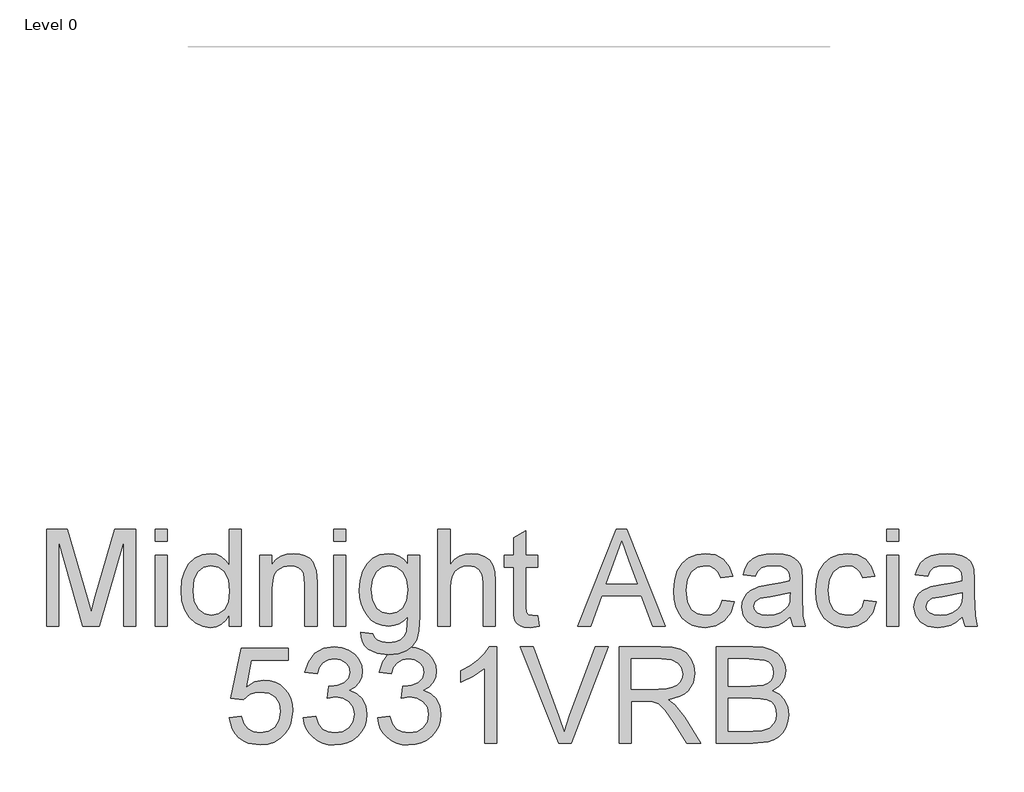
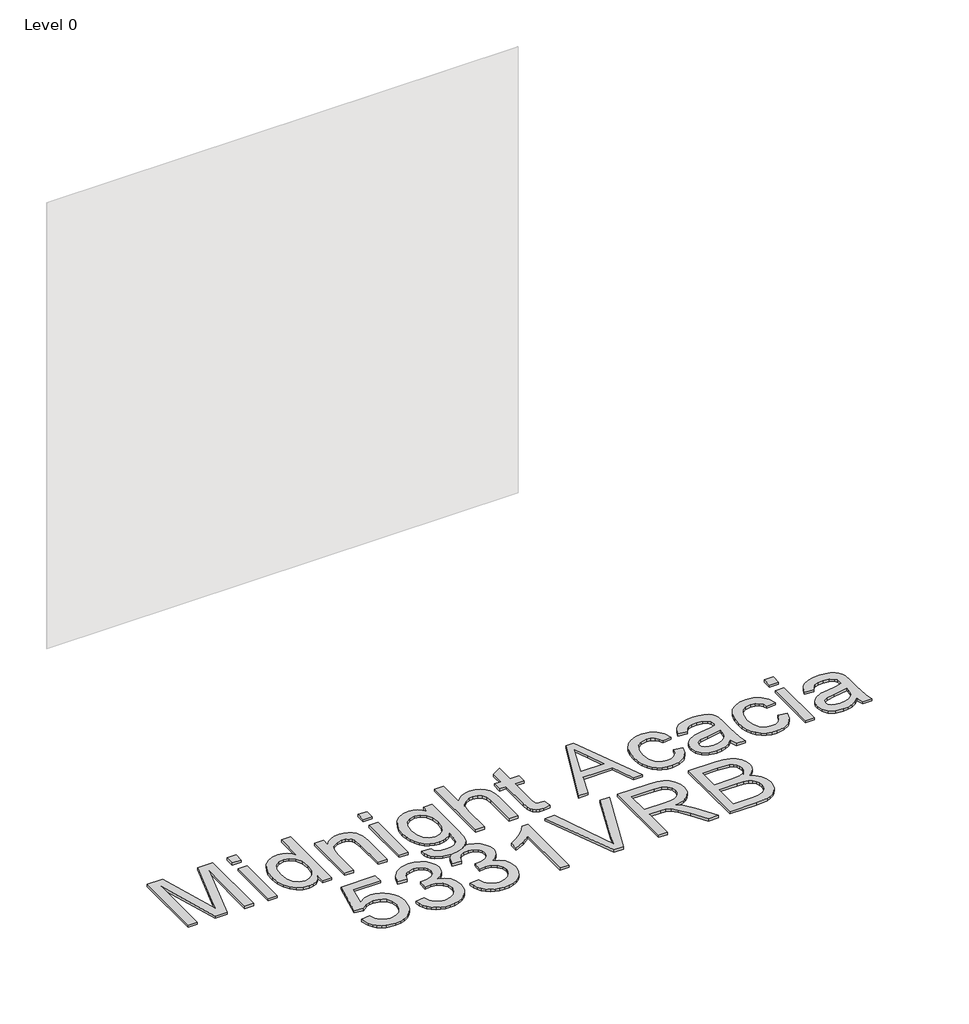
# One storey, part 17 of 43: 1 proxy.
"""IFC4 building model written with IfcOpenShell, lengths in millimetres."""

from ifc_helpers import new_model, si_unit, origin, origin_with_axes, place, context, project, spatial, polyline, outline, extrude, element, save

model = new_model("IFC4")

# Units and contexts
model_context = context("Model", 3, world=origin())
ifc_project = project(units=[si_unit("LENGTHUNIT", "METRE", prefix="MILLI")], contexts=[model_context])

# Site, building, storey
site = spatial("IfcSite", under=ifc_project)
building = spatial("IfcBuilding", under=site)
storey = spatial("IfcBuildingStorey", under=building, Name="Level 0", Elevation=0.0)

# Proxy
placement = place(None, origin())
element("IfcBuildingElementProxy", 1, Name="300mm Arial", ObjectType="300mm Arial", at=placement, inside=storey, context=model_context, shape_type="SweptSolid", body=[
    extrude(outline(polyline([(9108.421745, -37028.0303751), (9108.421745, -36726.6614447), (9173.2425525, -36726.6614447), (9234.8995749, -36939.0765087), (9247.3339864, -36983.4430773), (9260.7984674, -36935.3976887), (9321.4254202, -36726.6614447), (9386.2462277, -36726.6614447), (9386.2462277, -37028.0303751), (9348.5751114, -37028.0303751), (9348.5751114, -36764.332561), (9272.8649968, -37028.0303751), (9221.8029759, -37028.0303751), (9146.0928613, -36764.332561), (9146.0928613, -37028.0303751), (9108.421745, -37028.0303751)])), origin_with_axes(), (0.0, 0.0, 1.0), 10.0),
    extrude(outline(polyline([(9447.4617917, -36764.332561), (9447.4617917, -36726.6614447), (9485.132908, -36726.6614447), (9485.132908, -36764.332561), (9447.4617917, -36764.332561)])), origin_with_axes(), (0.0, 0.0, 1.0), 10.0),
    extrude(outline(polyline([(9447.4617917, -37028.0303751), (9447.4617917, -36806.7125668), (9485.132908, -36806.7125668), (9485.132908, -37028.0303751), (9447.4617917, -37028.0303751)])), origin_with_axes(), (0.0, 0.0, 1.0), 10.0),
    extrude(outline(polyline([(9678.1973791, -37028.0303751), (9678.1973791, -36992.4929744), (9666.9263945, -37010.1007264), (9653.2733739, -37022.6776921), (9637.2383175, -37030.2238715), (9618.8212251, -37032.7392647), (9594.467437, -37029.0972329), (9572.1737881, -37018.1711377), (9553.3014418, -37000.724334), (9539.2115613, -36977.5201772), (9530.4375758, -36949.4967662), (9527.5129139, -36917.5922002), (9530.2076495, -36886.0831073), (9538.2918563, -36857.627435), (9551.7563374, -36833.843864), (9570.5918955, -36816.3510751), (9593.3729881, -36805.5905267), (9618.6740723, -36802.0036773), (9637.1049603, -36804.5696542), (9653.4021326, -36812.2675849), (9667.2161016, -36824.0673999), (9678.1973791, -36838.9390296), (9678.1973791, -36726.6614447), (9715.8684954, -36726.6614447), (9715.8684954, -37028.0303751), (9678.1973791, -37028.0303751)]), holes=[polyline([(9565.1840302, -36917.4450474), (9569.4330672, -36951.5201172), (9582.1801784, -36975.7543436), (9600.7030368, -36990.2396972), (9622.2793158, -36995.0681484), (9643.8463978, -36990.4604264), (9661.9002067, -36976.6372604), (9674.123086, -36953.3411331), (9678.1973791, -36920.3145269), (9674.0495096, -36884.2069091), (9661.6059011, -36859.1725393), (9643.0922397, -36844.54923), (9620.7342115, -36839.6747936), (9598.9372033, -36844.356092), (9581.0765324, -36858.3999871), (9569.1571557, -36882.523849), (9565.1840302, -36917.4450474)])]), origin_with_axes(), (0.0, 0.0, 1.0), 10.0),
    extrude(outline(polyline([(9772.3751699, -37028.0303751), (9772.3751699, -36806.7125668), (9810.0462862, -36806.7125668), (9810.0462862, -36837.6146544), (9823.1336882, -36822.0348519), (9838.8514464, -36810.9064216), (9857.1995609, -36804.2293634), (9878.1780317, -36802.0036773), (9896.7468754, -36803.797102), (9913.7522206, -36809.1773762), (9927.9340715, -36817.4731152), (9938.0324323, -36828.0129343), (9949.3264096, -36855.7144486), (9951.3129723, -36892.1347661), (9951.3129723, -37028.0303751), (9913.641856, -37028.0303751), (9913.641856, -36897.2115376), (9909.3008485, -36863.8814289), (9903.2951749, -36853.9578121), (9893.9601693, -36846.2598813), (9881.9948074, -36841.3210655), (9868.098065, -36839.6747936), (9846.0343424, -36843.3720076), (9827.2263754, -36854.4636498), (9819.7100863, -36863.5181454), (9814.3413085, -36875.892776), (9810.0462862, -36910.6024423), (9810.0462862, -37028.0303751), (9772.3751699, -37028.0303751)])), origin_with_axes(), (0.0, 0.0, 1.0), 10.0),
    extrude(outline(polyline([(10003.1107573, -36764.332561), (10003.1107573, -36726.6614447), (10040.7818736, -36726.6614447), (10040.7818736, -36764.332561), (10003.1107573, -36764.332561)])), origin_with_axes(), (0.0, 0.0, 1.0), 10.0),
    extrude(outline(polyline([(10003.1107573, -37028.0303751), (10003.1107573, -36806.7125668), (10040.7818736, -36806.7125668), (10040.7818736, -37028.0303751), (10003.1107573, -37028.0303751)])), origin_with_axes(), (0.0, 0.0, 1.0), 10.0),
    extrude(outline(polyline([(10087.8707689, -37046.8659333), (10125.5418852, -37051.5748228), (10129.6989518, -37063.3470467), (10137.7555675, -37071.4404506), (10153.5928874, -37077.7312327), (10174.3230378, -37079.82816), (10196.4327457, -37077.4553212), (10212.8770709, -37070.3368046), (10224.2814128, -37058.9324627), (10231.2711707, -37043.7021481), (10233.8463446, -36999.7770379), (10221.3107656, -37012.1378729), (10207.3220528, -37020.9670408), (10191.880206, -37026.2645415), (10174.9852254, -37028.0303751), (10154.3309506, -37025.9748345), (10136.1460838, -37019.8082125), (10120.4306248, -37009.5305093), (10107.1845737, -36995.1417248), (10096.6746449, -36977.8788621), (10089.167553, -36958.9789246), (10084.6632978, -36938.4419122), (10083.1618794, -36916.267825), (10085.856615, -36885.853181), (10093.9408219, -36857.8849524), (10107.1293914, -36834.1841548), (10125.1372151, -36816.5718043), (10147.3480905, -36805.645709), (10173.1458154, -36802.0036773), (10190.7627645, -36804.0638165), (10206.7518357, -36810.244234), (10221.1130291, -36820.5449298), (10233.8463446, -36834.9659041), (10233.8463446, -36806.7125668), (10271.5174609, -36806.7125668), (10271.5174609, -36997.7904751), (10268.942287, -37041.9087234), (10261.2167651, -37070.962204), (10247.9086339, -37090.2300235), (10228.5856321, -37104.9912885), (10203.670824, -37114.3722794), (10173.5872738, -37117.4992763), (10138.5373167, -37113.0938895), (10110.93697, -37099.8777288), (10100.5420044, -37089.9564112), (10093.232649, -37077.8140061), (10089.0089039, -37063.4505135), (10087.8707689, -37046.8659333)]), holes=[polyline([(10120.8329957, -36913.692651), (10124.8521065, -36948.2459674), (10136.9094389, -36972.0019473), (10155.0368242, -36985.7699309), (10177.2660938, -36990.3592588), (10199.3298164, -36985.7975221), (10217.5491722, -36972.1123119), (10229.7720515, -36948.6598347), (10233.8463446, -36914.796297), (10229.6524899, -36882.1375729), (10217.0709256, -36858.6207163), (10198.5848554, -36844.4112743), (10176.6774826, -36839.6747936), (10155.1655829, -36844.3376979), (10137.1301681, -36858.3264107), (10124.9072888, -36881.4937794), (10120.8329957, -36913.692651)])]), origin_with_axes(), (0.0, 0.0, 1.0), 10.0),
    extrude(outline(polyline([(10328.0241354, -37028.0303751), (10328.0241354, -36726.6614447), (10365.6952517, -36726.6614447), (10365.6952517, -36837.4675016), (10379.5322132, -36821.9520785), (10395.070629, -36810.8696334), (10412.310499, -36804.2201663), (10431.2518232, -36802.0036773), (10454.0053246, -36804.4225014), (10473.5582527, -36811.6789738), (10488.9541142, -36823.2028773), (10499.2364159, -36838.4239948), (10505.0305574, -36859.3380862), (10506.9619378, -36887.9409114), (10506.9619378, -37028.0303751), (10469.2908215, -37028.0303751), (10469.2908215, -36891.8404605), (10466.2925833, -36868.2592246), (10457.2978685, -36852.109205), (10442.8033179, -36842.7833964), (10423.3055721, -36839.6747936), (10407.3854788, -36841.771721), (10392.4402727, -36848.0625031), (10380.0610436, -36857.9401347), (10371.838881, -36870.7976104), (10367.231159, -36887.8857291), (10365.6952517, -36910.4552895), (10365.6952517, -37028.0303751), (10328.0241354, -37028.0303751)])), origin_with_axes(), (0.0, 0.0, 1.0), 10.0),
    extrude(outline(polyline([(10638.8108449, -36996.6132527), (10643.5197345, -37029.1340211), (10615.3399736, -37032.7392647), (10597.2585736, -37031.1757662), (10583.7756984, -37026.4852707), (10574.2475548, -37019.2563895), (10568.030349, -37010.0777338), (10564.6090465, -36994.3139903), (10563.4686123, -36967.3298459), (10563.4686123, -36844.3836831), (10535.2152751, -36844.3836831), (10535.2152751, -36806.7125668), (10563.4686123, -36806.7125668), (10563.4686123, -36752.9282191), (10601.1397286, -36730.781723), (10601.1397286, -36806.7125668), (10638.8108449, -36806.7125668), (10638.8108449, -36844.3836831), (10601.1397286, -36844.3836831), (10601.1397286, -36966.2261999), (10603.1262914, -36985.6503693), (10609.5642263, -36992.5297626), (10622.4033079, -36995.0681484), (10638.8108449, -36996.6132527)])), origin_with_axes(), (0.0, 0.0, 1.0), 10.0),
    extrude(outline(polyline([(10763.8171469, -37028.0303751), (10884.1145593, -36726.6614447), (10916.1938693, -36726.6614447), (11036.4912817, -37028.0303751), (10996.6864498, -37028.0303751), (10962.1791187, -36933.8525844), (10838.0557335, -36933.8525844), (10803.6219788, -37028.0303751), (10763.8171469, -37028.0303751)]), holes=[polyline([(10851.8880965, -36896.181468), (10948.4203321, -36896.181468), (10921.2706408, -36822.0900342), (10900.1542143, -36764.332561), (10881.3922325, -36815.6153111), (10851.8880965, -36896.181468)])]), origin_with_axes(), (0.0, 0.0, 1.0), 10.0),
    extrude(outline(polyline([(11213.2953686, -36947.979253), (11250.9664849, -36952.6881425), (11240.4634539, -36986.1929952), (11220.7265849, -37011.5124735), (11193.6136818, -37027.4325669), (11160.9825489, -37032.7392647), (11139.854626, -37030.8883584), (11120.9110025, -37025.3356395), (11104.1516784, -37016.0811081), (11089.5766536, -37003.124764), (11077.7791379, -36986.7103293), (11069.3523409, -36967.0815256), (11064.2962628, -36944.2383529), (11062.6109034, -36918.1808114), (11065.48958, -36884.6575646), (11074.1256098, -36855.604084), (11088.6569486, -36832.1424097), (11109.2215522, -36815.3945819), (11133.8236606, -36805.3514034), (11160.4675141, -36802.0036773), (11192.2985037, -36806.6022022), (11217.7467407, -36820.397777), (11236.0028847, -36842.6546378), (11246.2575954, -36872.6370204), (11208.586479, -36877.3459099), (11201.753071, -36860.9107818), (11191.1120843, -36849.1293609), (11177.2521301, -36842.0384354), (11160.7618197, -36839.6747936), (11136.4172286, -36844.3285008), (11117.0942268, -36858.2896225), (11104.4850715, -36882.3123168), (11100.2820197, -36917.1507418), (11104.393101, -36952.4582163), (11116.7263449, -36976.563684), (11135.6998588, -36990.4420323), (11159.7317501, -36995.0681484), (11179.2386929, -36992.1802747), (11195.2323626, -36983.5166537), (11206.8666307, -36968.8565562), (11213.2953686, -36947.979253)])), origin_with_axes(), (0.0, 0.0, 1.0), 10.0),
    extrude(outline(polyline([(11425.1953978, -36999.7770379), (11407.1967712, -37015.2096876), (11388.6647157, -37025.3080484), (11369.176167, -37030.8814606), (11348.3080608, -37032.7392647), (11316.8265591, -37028.2694984), (11293.6040081, -37014.8601997), (11279.2842015, -36994.4979313), (11274.5109326, -36969.1692559), (11276.3135544, -36953.5526652), (11281.7214197, -36939.3708143), (11290.0631439, -36927.2307084), (11300.6673424, -36917.739353), (11327.0444815, -36905.3785179), (11359.6388263, -36899.7131352), (11398.1560712, -36893.7534469), (11424.9746686, -36886.763689), (11425.1953978, -36878.3759795), (11422.6018297, -36861.5637723), (11414.8211255, -36850.5641006), (11397.4203072, -36842.3971204), (11373.1768837, -36839.6747936), (11350.736082, -36841.4866124), (11335.064309, -36846.9220689), (11324.377337, -36856.9744444), (11316.8909384, -36872.6370204), (11279.2198221, -36867.9281308), (11285.7589246, -36847.3267391), (11295.5169945, -36831.1399313), (11309.4045398, -36818.7607022), (11328.3320685, -36809.5820464), (11351.481043, -36803.8982696), (11378.032926, -36802.0036773), (11403.4995571, -36803.6775404), (11423.6870816, -36808.6991296), (11438.9081992, -36816.2499075), (11449.4756095, -36825.5113368), (11456.4837615, -36836.9616639), (11461.0271041, -36851.0791354), (11462.8665141, -36884.0413622), (11462.8665141, -36930.9095284), (11464.7795005, -36996.3557353), (11472.2842932, -37028.0303751), (11434.6131769, -37028.0303751), (11425.1953978, -36999.7770379)]), holes=[polyline([(11425.1953978, -36924.4348053), (11364.4212922, -36935.9862999), (11332.0108884, -36942.093141), (11317.3323968, -36952.0259549), (11312.1820489, -36966.5205055), (11314.9871491, -36977.7225123), (11323.4024497, -36986.9011681), (11337.2440098, -36993.0264033), (11356.3278883, -36995.0681484), (11376.561398, -36992.8148711), (11394.440463, -36986.0550395), (11408.9350136, -36976.0946345), (11419.0149803, -36964.2396372), (11423.4847465, -36952.0259549), (11424.9746686, -36935.1033831), (11425.1953978, -36924.4348053)])]), origin_with_axes(), (0.0, 0.0, 1.0), 10.0),
    extrude(outline(polyline([(11655.9309852, -36947.979253), (11693.6021015, -36952.6881425), (11683.0990705, -36986.1929952), (11663.3622015, -37011.5124735), (11636.2492984, -37027.4325669), (11603.6181655, -37032.7392647), (11582.4902426, -37030.8883584), (11563.5466191, -37025.3356395), (11546.787295, -37016.0811081), (11532.2122702, -37003.124764), (11520.4147545, -36986.7103293), (11511.9879575, -36967.0815256), (11506.9318794, -36944.2383529), (11505.24652, -36918.1808114), (11508.1251966, -36884.6575646), (11516.7612264, -36855.604084), (11531.2925652, -36832.1424097), (11551.8571687, -36815.3945819), (11576.4592772, -36805.3514034), (11603.1031307, -36802.0036773), (11634.9341203, -36806.6022022), (11660.3823573, -36820.397777), (11678.6385013, -36842.6546378), (11688.893212, -36872.6370204), (11651.2220956, -36877.3459099), (11644.3886876, -36860.9107818), (11633.7477009, -36849.1293609), (11619.8877467, -36842.0384354), (11603.3974363, -36839.6747936), (11579.0528452, -36844.3285008), (11559.7298434, -36858.2896225), (11547.1206881, -36882.3123168), (11542.9176363, -36917.1507418), (11547.0287176, -36952.4582163), (11559.3619615, -36976.563684), (11578.3354754, -36990.4420323), (11602.3673667, -36995.0681484), (11621.8743095, -36992.1802747), (11637.8679792, -36983.5166537), (11649.5022473, -36968.8565562), (11655.9309852, -36947.979253)])), origin_with_axes(), (0.0, 0.0, 1.0), 10.0),
    extrude(outline(polyline([(11726.5643283, -36764.332561), (11726.5643283, -36726.6614447), (11764.2354446, -36726.6614447), (11764.2354446, -36764.332561), (11726.5643283, -36764.332561)])), origin_with_axes(), (0.0, 0.0, 1.0), 10.0),
    extrude(outline(polyline([(11726.5643283, -37028.0303751), (11726.5643283, -36806.7125668), (11764.2354446, -36806.7125668), (11764.2354446, -37028.0303751), (11726.5643283, -37028.0303751)])), origin_with_axes(), (0.0, 0.0, 1.0), 10.0),
    extrude(outline(polyline([(11962.0088052, -36999.7770379), (11944.0101786, -37015.2096876), (11925.4781231, -37025.3080484), (11905.9895744, -37030.8814606), (11885.1214682, -37032.7392647), (11853.6399664, -37028.2694984), (11830.4174155, -37014.8601997), (11816.0976088, -36994.4979313), (11811.3243399, -36969.1692559), (11813.1269617, -36953.5526652), (11818.5348271, -36939.3708143), (11826.8765513, -36927.2307084), (11837.4807498, -36917.739353), (11863.8578889, -36905.3785179), (11896.4522336, -36899.7131352), (11934.9694785, -36893.7534469), (11961.788076, -36886.763689), (11962.0088052, -36878.3759795), (11959.4152371, -36861.5637723), (11951.6345329, -36850.5641006), (11934.2337145, -36842.3971204), (11909.9902911, -36839.6747936), (11887.5494893, -36841.4866124), (11871.8777164, -36846.9220689), (11861.1907444, -36856.9744444), (11853.7043458, -36872.6370204), (11816.0332295, -36867.9281308), (11822.5723319, -36847.3267391), (11832.3304019, -36831.1399313), (11846.2179472, -36818.7607022), (11865.1454758, -36809.5820464), (11888.2944504, -36803.8982696), (11914.8463334, -36802.0036773), (11940.3129645, -36803.6775404), (11960.500489, -36808.6991296), (11975.7216065, -36816.2499075), (11986.2890169, -36825.5113368), (11993.2971689, -36836.9616639), (11997.8405115, -36851.0791354), (11999.6799215, -36884.0413622), (11999.6799215, -36930.9095284), (12001.5929079, -36996.3557353), (12009.0977006, -37028.0303751), (11971.4265842, -37028.0303751), (11962.0088052, -36999.7770379)]), holes=[polyline([(11962.0088052, -36924.4348053), (11901.2346996, -36935.9862999), (11868.8242958, -36942.093141), (11854.1458042, -36952.0259549), (11848.9954563, -36966.5205055), (11851.8005565, -36977.7225123), (11860.2158571, -36986.9011681), (11874.0574172, -36993.0264033), (11893.1412957, -36995.0681484), (11913.3748054, -36992.8148711), (11931.2538704, -36986.0550395), (11945.748421, -36976.0946345), (11955.8283877, -36964.2396372), (11960.2981539, -36952.0259549), (11961.788076, -36935.1033831), (11962.0088052, -36924.4348053)])]), origin_with_axes(), (0.0, 0.0, 1.0), 10.0),
    extrude(outline(polyline([(9678.1973791, -37313.9037065), (9715.8684954, -37309.194817), (9722.7846769, -37331.8103626), (9734.8512064, -37348.0063675), (9752.0129014, -37357.7460433), (9774.2145799, -37360.9926019), (9801.2171183, -37356.4768504), (9821.450628, -37342.9295959), (9834.0873746, -37321.914337), (9838.2996234, -37294.994572), (9834.354089, -37269.6475025), (9822.5174858, -37250.2601213), (9802.6978433, -37237.9544686), (9774.803191, -37233.8525844), (9756.5286529, -37235.4896592), (9741.7305997, -37240.4008839), (9720.577385, -37257.397032), (9682.9062687, -37252.6881425), (9715.8684954, -37097.2947877), (9861.8440711, -37097.2947877), (9861.8440711, -37134.9659041), (9746.3291246, -37134.9659041), (9730.2158932, -37217.9600822), (9757.1264612, -37201.6261216), (9785.3246161, -37196.181468), (9803.6704314, -37197.8691267), (9820.521726, -37202.9321027), (9835.8785, -37211.3703959), (9849.7407535, -37223.1840065), (9861.2163725, -37237.650966), (9869.4132432, -37254.0493059), (9874.3313656, -37272.3790263), (9875.9707397, -37292.6401272), (9870.0662337, -37330.3112435), (9862.6856012, -37347.1050566), (9852.3527156, -37362.5377063), (9836.6993367, -37378.3428365), (9818.4339957, -37389.6322152), (9797.5566924, -37396.4058424), (9774.0674271, -37398.6637182), (9737.0676954, -37392.8603797), (9721.3890246, -37385.6062066), (9707.5911505, -37375.4503643), (9696.110933, -37362.8986905), (9687.3852319, -37348.4570229), (9678.1973791, -37313.9037065)])), origin_with_axes(), (0.0, 0.0, 1.0), 10.0),
    extrude(outline(polyline([(9908.9329665, -37313.9037065), (9946.6040828, -37309.194817), (9955.0377775, -37332.8680234), (9967.3894155, -37348.852496), (9984.2660021, -37357.9575754), (10006.2745424, -37360.9926019), (10032.0998585, -37356.8171412), (10052.0390626, -37344.2907593), (10064.7861737, -37325.602354), (10069.0352108, -37302.940823), (10064.8229619, -37281.4289234), (10052.1862154, -37263.9821198), (10033.0563517, -37252.4214281), (10009.3647512, -37248.5678642), (9982.9508239, -37252.6881425), (9987.1446787, -37215.0170262), (9993.1779434, -37215.4584846), (10015.7475038, -37212.7545519), (10035.9258312, -37204.6427539), (10050.1628644, -37190.9207555), (10054.9085422, -37171.3862216), (10051.4688455, -37155.1166403), (10041.1497556, -37141.9188738), (10025.4044062, -37133.1724793), (10005.6859312, -37130.2570145), (9985.9306681, -37133.2000705), (9969.7806485, -37142.0292384), (9957.9900305, -37156.7445182), (9951.3129723, -37177.3459099), (9913.641856, -37172.6370204), (9924.7334982, -37138.8102709), (9944.4703672, -37113.5551719), (9971.4729057, -37097.8282166), (10004.361556, -37092.5858982), (10028.0439595, -37095.1702692), (10049.7949824, -37102.9233823), (10068.1338999, -37115.1554586), (10081.5799868, -37131.1767195), (10089.8297406, -37149.6351986), (10092.5796585, -37169.1789296), (10089.9676963, -37187.3890884), (10082.1318098, -37203.9069899), (10069.1823636, -37217.9784763), (10051.2297222, -37228.8493892), (10074.8109581, -37238.3775329), (10092.2853529, -37254.6011289), (10103.1010835, -37276.6372604), (10106.7063271, -37303.6030106), (10104.9037053, -37322.7144803), (10099.49584, -37340.3176338), (10090.4827311, -37356.412471), (10077.8643787, -37370.9989922), (10062.4915098, -37383.1023098), (10045.2148516, -37391.7475367), (10026.0344041, -37396.9346728), (10004.9501672, -37398.6637182), (9985.8938799, -37397.1875917), (9968.5298497, -37392.7592122), (9952.8580767, -37385.3785796), (9938.8785609, -37375.0456941), (9927.1569208, -37362.3675608), (9918.2587751, -37347.9511852), (9912.1841236, -37331.796567), (9908.9329665, -37313.9037065)])), origin_with_axes(), (0.0, 0.0, 1.0), 10.0),
    extrude(outline(polyline([(10139.6685539, -37313.9037065), (10177.3396702, -37309.194817), (10185.7733649, -37332.8680234), (10198.1250029, -37348.852496), (10215.0015894, -37357.9575754), (10237.0101298, -37360.9926019), (10262.8354458, -37356.8171412), (10282.77465, -37344.2907593), (10295.5217611, -37325.602354), (10299.7707982, -37302.940823), (10295.5585493, -37281.4289234), (10282.9218028, -37263.9821198), (10263.791939, -37252.4214281), (10240.1003385, -37248.5678642), (10213.6864113, -37252.6881425), (10217.880266, -37215.0170262), (10223.9135308, -37215.4584846), (10246.4830912, -37212.7545519), (10266.6614186, -37204.6427539), (10280.8984518, -37190.9207555), (10285.6441296, -37171.3862216), (10282.2044329, -37155.1166403), (10271.8853429, -37141.9188738), (10256.1399935, -37133.1724793), (10236.4215186, -37130.2570145), (10216.6662555, -37133.2000705), (10200.5162359, -37142.0292384), (10188.7256179, -37156.7445182), (10182.0485597, -37177.3459099), (10144.3774434, -37172.6370204), (10155.4690856, -37138.8102709), (10175.2059546, -37113.5551719), (10202.208493, -37097.8282166), (10235.0971434, -37092.5858982), (10258.7795469, -37095.1702692), (10280.5305698, -37102.9233823), (10298.8694873, -37115.1554586), (10312.3155742, -37131.1767195), (10320.5653279, -37149.6351986), (10323.3152459, -37169.1789296), (10320.7032837, -37187.3890884), (10312.8673972, -37203.9069899), (10299.917951, -37217.9784763), (10281.9653096, -37228.8493892), (10305.5465455, -37238.3775329), (10323.0209403, -37254.6011289), (10333.8366709, -37276.6372604), (10337.4419145, -37303.6030106), (10335.6392927, -37322.7144803), (10330.2314274, -37340.3176338), (10321.2183185, -37356.412471), (10308.599966, -37370.9989922), (10293.2270972, -37383.1023098), (10275.950439, -37391.7475367), (10256.7699915, -37396.9346728), (10235.6857546, -37398.6637182), (10216.6294673, -37397.1875917), (10199.2654371, -37392.7592122), (10183.5936641, -37385.3785796), (10169.6141483, -37375.0456941), (10157.8925082, -37362.3675608), (10148.9943624, -37347.9511852), (10142.919711, -37331.796567), (10139.6685539, -37313.9037065)])), origin_with_axes(), (0.0, 0.0, 1.0), 10.0),
    extrude(outline(polyline([(10511.6708274, -37393.9548287), (10473.9997111, -37393.9548287), (10473.9997111, -37159.0989629), (10438.3151575, -37184.5196088), (10398.6574785, -37203.539108), (10398.6574785, -37167.9281308), (10428.2443879, -37151.8332935), (10453.8765659, -37132.6850357), (10474.0824845, -37112.3227672), (10487.3906157, -37092.5858982), (10511.6708274, -37092.5858982), (10511.6708274, -37393.9548287)])), origin_with_axes(), (0.0, 0.0, 1.0), 10.0),
    extrude(outline(polyline([(10704.2938401, -37393.9548287), (10584.3643096, -37092.5858982), (10624.6841763, -37092.5858982), (10704.9560277, -37309.7098518), (10721.2164118, -37358.6381571), (10737.2560668, -37309.7098518), (10817.7486474, -37092.5858982), (10858.068514, -37092.5858982), (10743.2157552, -37393.9548287), (10704.2938401, -37393.9548287)])), origin_with_axes(), (0.0, 0.0, 1.0), 10.0),
    extrude(outline(polyline([(10893.09088, -37393.9548287), (10893.09088, -37092.5858982), (11022.9532243, -37092.5858982), (11057.8560286, -37094.6184462), (11083.2490833, -37100.7160903), (11101.8087299, -37111.9732794), (11116.2113101, -37129.4844623), (11125.4543452, -37151.1986971), (11128.5353569, -37175.0650415), (11123.4309942, -37204.7531185), (11108.1179062, -37229.364424), (11096.518127, -37239.3938069), (11082.1362403, -37247.4090359), (11045.026144, -37257.397032), (11066.4368761, -37273.5102634), (11096.9710817, -37312.2850257), (11147.2237623, -37393.9548287), (11103.4458048, -37393.9548287), (11064.2295841, -37331.4884659), (11035.9026705, -37290.1385296), (11016.0002546, -37270.6039957), (10998.0844014, -37263.4302968), (10976.2322109, -37262.1059216), (10930.7619963, -37262.1059216), (10930.7619963, -37393.9548287), (10893.09088, -37393.9548287)]), holes=[polyline([(10930.7619963, -37224.4348053), (11015.0805496, -37224.4348053), (11039.2963819, -37223.101233), (11058.0859548, -37219.1005163), (11072.2310175, -37212.1659407), (11082.5133193, -37202.0307918), (11088.7765103, -37189.7711243), (11090.8642406, -37176.4629931), (11086.881918, -37158.0872874), (11074.9349502, -37143.2800371), (11054.3795437, -37133.5127702), (11024.5719051, -37130.2570145), (10930.7619963, -37130.2570145), (10930.7619963, -37224.4348053)])]), origin_with_axes(), (0.0, 0.0, 1.0), 10.0),
    extrude(outline(polyline([(11194.4598104, -37393.9548287), (11194.4598104, -37092.5858982), (11309.4597221, -37092.5858982), (11341.0883767, -37094.8023872), (11365.7824556, -37101.4518543), (11384.7099842, -37112.6998463), (11399.038988, -37128.7119101), (11408.0612939, -37147.5474683), (11411.0687292, -37167.2659432), (11408.5395405, -37185.4117226), (11400.9519743, -37202.4722502), (11388.2508484, -37217.3990621), (11370.3809805, -37229.1436948), (11391.7273333, -37240.2905193), (11407.5002738, -37257.2498792), (11417.2399497, -37278.8997347), (11420.4865083, -37304.1180454), (11418.2700193, -37325.1333044), (11411.6205522, -37344.6218531), (11401.6969354, -37361.194937), (11389.6579971, -37373.4638015), (11374.9151261, -37382.3481517), (11356.8797113, -37388.7676925), (11308.5768053, -37393.9548287), (11194.4598104, -37393.9548287)]), holes=[polyline([(11232.1309267, -37215.0170262), (11300.9248598, -37215.0170262), (11341.0975737, -37211.7796646), (11355.159863, -37206.1970554), (11365.2674208, -37197.836937), (11371.3650649, -37186.8280683), (11373.3976129, -37173.2992079), (11371.5030206, -37160.1658207), (11365.8192438, -37148.7246907), (11356.6037998, -37139.7943552), (11344.1142061, -37134.1933519), (11295.7009355, -37130.2570145), (11232.1309267, -37130.2570145), (11232.1309267, -37215.0170262)]), polyline([(11232.1309267, -37356.2837124), (11309.3861457, -37356.2837124), (11337.3451774, -37354.8121844), (11360.9999897, -37346.6084159), (11376.6717626, -37329.8697851), (11381.2794846, -37318.042379), (11382.815392, -37304.4859274), (11381.0127702, -37288.740578), (11375.6049049, -37275.2025206), (11366.1595346, -37264.6167162), (11352.2443982, -37257.7281258), (11332.5351203, -37253.9481383), (11305.7073258, -37252.6881425), (11232.1309267, -37252.6881425), (11232.1309267, -37356.2837124)])]), origin_with_axes(), (0.0, 0.0, 1.0), 10.0),
])

save(model, "model.ifc")
